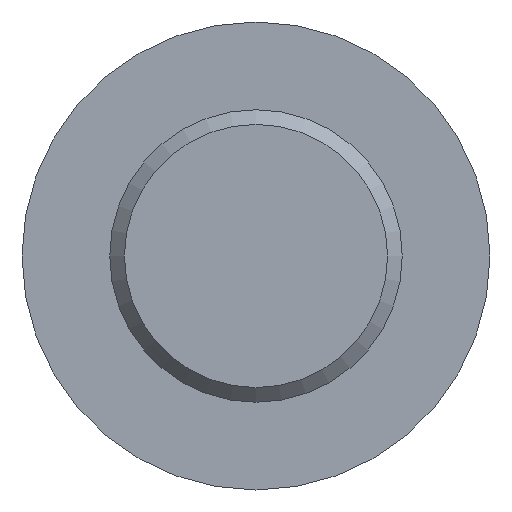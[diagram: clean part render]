
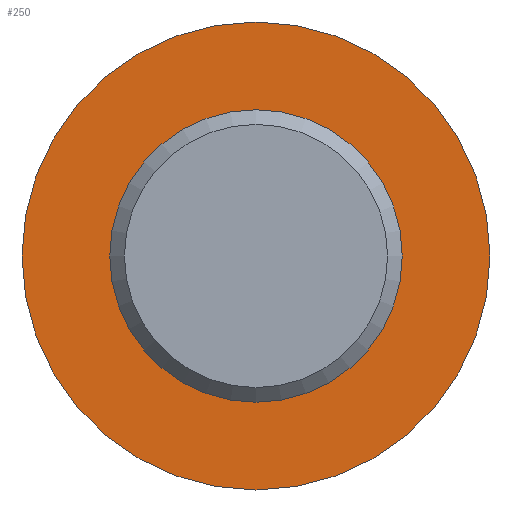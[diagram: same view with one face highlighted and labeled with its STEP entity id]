
A CAD part, front view. The second image highlights one B-rep face of the part: STEP entity #250.
In plain terms, the highlighted planar face has unit normal (0, -1, 0).
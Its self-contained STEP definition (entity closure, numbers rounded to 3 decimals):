
#17=FACE_BOUND('',#61,.T.);
#30=PLANE('',#303);
#43=FACE_OUTER_BOUND('',#60,.T.);
#60=EDGE_LOOP('',(#214,#215));
#61=EDGE_LOOP('',(#216,#217));
#100=CIRCLE('',#301,5.);
#101=CIRCLE('',#302,5.);
#102=CIRCLE('',#304,8.);
#103=CIRCLE('',#305,8.);
#126=VERTEX_POINT('',#456);
#127=VERTEX_POINT('',#457);
#128=VERTEX_POINT('',#462);
#129=VERTEX_POINT('',#463);
#157=EDGE_CURVE('',#126,#127,#100,.T.);
#158=EDGE_CURVE('',#127,#126,#101,.T.);
#160=EDGE_CURVE('',#128,#129,#102,.T.);
#161=EDGE_CURVE('',#129,#128,#103,.T.);
#214=ORIENTED_EDGE('',*,*,#160,.F.);
#215=ORIENTED_EDGE('',*,*,#161,.F.);
#216=ORIENTED_EDGE('',*,*,#157,.T.);
#217=ORIENTED_EDGE('',*,*,#158,.T.);
#250=ADVANCED_FACE('',(#43,#17),#30,.T.);
#301=AXIS2_PLACEMENT_3D('',#458,#375,#376);
#302=AXIS2_PLACEMENT_3D('',#459,#377,#378);
#303=AXIS2_PLACEMENT_3D('',#461,#380,#381);
#304=AXIS2_PLACEMENT_3D('',#464,#382,#383);
#305=AXIS2_PLACEMENT_3D('',#465,#384,#385);
#375=DIRECTION('center_axis',(0.,1.,0.));
#376=DIRECTION('ref_axis',(1.,0.,0.));
#377=DIRECTION('center_axis',(0.,1.,0.));
#378=DIRECTION('ref_axis',(1.,0.,0.));
#380=DIRECTION('center_axis',(0.,-1.,0.));
#381=DIRECTION('ref_axis',(0.,0.,-1.));
#382=DIRECTION('center_axis',(0.,1.,0.));
#383=DIRECTION('ref_axis',(1.,0.,0.));
#384=DIRECTION('center_axis',(0.,1.,0.));
#385=DIRECTION('ref_axis',(1.,0.,0.));
#456=CARTESIAN_POINT('',(0.,-189.,5.));
#457=CARTESIAN_POINT('',(0.,-189.,-5.));
#458=CARTESIAN_POINT('Origin',(0.,-189.,0.));
#459=CARTESIAN_POINT('Origin',(0.,-189.,0.));
#461=CARTESIAN_POINT('Origin',(0.,-189.,8.));
#462=CARTESIAN_POINT('',(0.,-189.,8.));
#463=CARTESIAN_POINT('',(0.,-189.,-8.));
#464=CARTESIAN_POINT('Origin',(0.,-189.,0.));
#465=CARTESIAN_POINT('Origin',(0.,-189.,0.));
